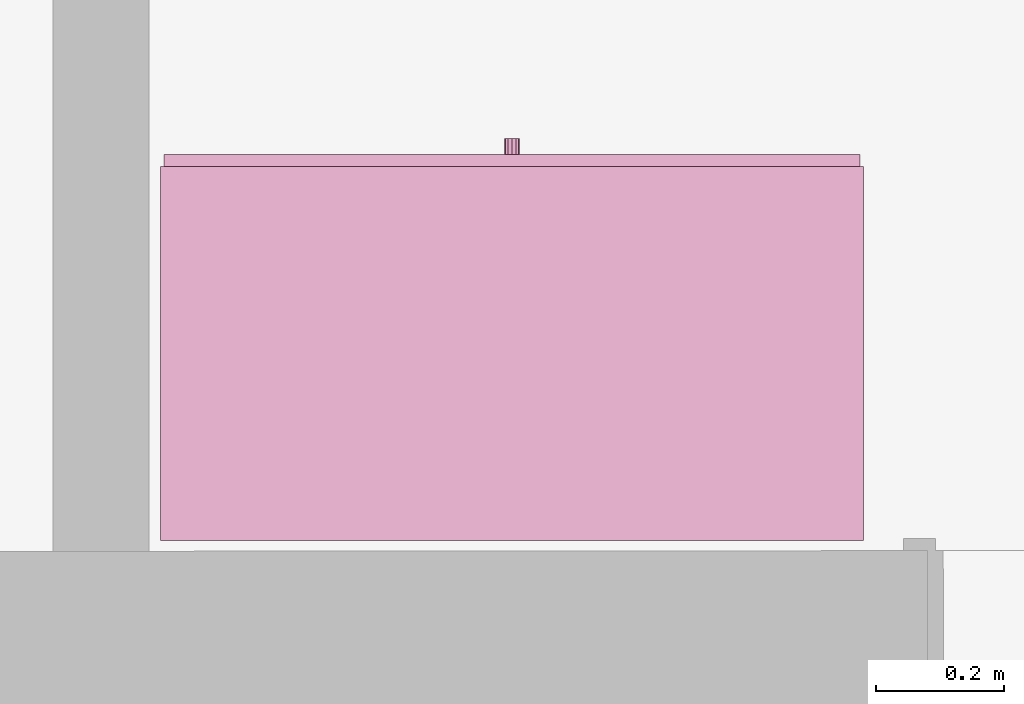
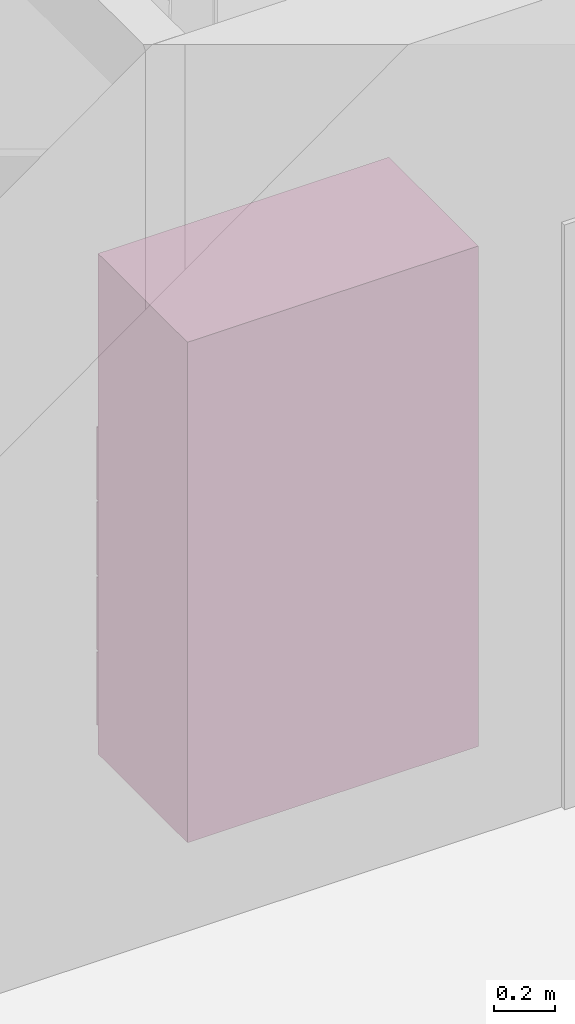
# One storey, part 155 of 194: 1 furnishing.
"""IFC2X3 building model written with IfcOpenShell, lengths in millimetres."""

import ifcopenshell
import ifcopenshell.guid

model = None  # the IFC model being written
_history = None  # IfcOwnerHistory: only IFC2X3 demands one
_inside = {}  # id of a spatial element -> (the spatial element, [elements in it])
_under = {}  # id of a project, library or spatial element -> (it, [spatial elements below it])
_declared = {}  # id of a project -> (the project, [libraries it declares])
_typed = {}  # id of a type object -> (the type object, [elements of that type])
_made_of = {}  # id of a material, layer set ... -> (it, [elements and type objects made of it])


def new_model(schema):
    """Start an empty IFC model of exactly this schema.

    Asked for "IFC4X3", IfcOpenShell would pick the latest addendum, in which some entities
    have other attributes; the version numbers below select the first issue.
    IFC2X3 requires an IfcOwnerHistory on every rooted entity: one is made here for all.
    """
    global model, _history
    if schema == "IFC4X3":
        model = ifcopenshell.file(schema_version=(4, 3, 0, 0))
    else:
        model = ifcopenshell.file(schema=schema)
    _inside.clear()
    _under.clear()
    _declared.clear()
    _typed.clear()
    _made_of.clear()
    _history = None
    if model.schema == "IFC2X3":
        org = make("IfcOrganization", Name="unknown")
        user = make(
            "IfcPersonAndOrganization",
            ThePerson=make("IfcPerson", FamilyName="unknown"),
            TheOrganization=org,
        )
        app = make(
            "IfcApplication",
            ApplicationDeveloper=org,
            Version="unknown",
            ApplicationFullName="unknown",
            ApplicationIdentifier="unknown",
        )
        _history = make(
            "IfcOwnerHistory",
            OwningUser=user,
            OwningApplication=app,
            ChangeAction="ADDED",
            CreationDate=0,
        )
    return model


def make(cls, **values):
    """One entity of the class cls with the attributes given. An attribute that is None is left unset."""
    return model.create_entity(
        cls, **{name: value for name, value in values.items() if value is not None}
    )


def entity(cls, *values):
    """Any entity or typed value of the class cls, its attributes in the order of the schema. None: left unset."""
    e = model.create_entity(cls)
    for i, value in enumerate(values):
        if value is not None:
            e[i] = value
    return e


def rooted(cls, **values):
    """An entity with a GlobalId (a new one), such as an element, a storey or a relation."""
    return make(cls, GlobalId=ifcopenshell.guid.new(), OwnerHistory=_history, **values)


def si_unit(unit_type, name, prefix=None):
    """IfcSIUnit, for example si_unit("LENGTHUNIT", "METRE", prefix="MILLI")."""
    return make("IfcSIUnit", UnitType=unit_type, Prefix=prefix, Name=name)


def converted_unit(unit_type, name, factor, base, dimensions=None, offset=None):
    """IfcConversionBasedUnit, such as the inch: factor (a typed value) times the base unit."""
    return make(
        "IfcConversionBasedUnit"
        if offset is None
        else "IfcConversionBasedUnitWithOffset",
        ConversionOffset=offset,
        Dimensions=None
        if dimensions is None
        else entity("IfcDimensionalExponents", *dimensions),
        UnitType=unit_type,
        Name=name,
        ConversionFactor=make(
            "IfcMeasureWithUnit", ValueComponent=factor, UnitComponent=base
        ),
    )


def derived_unit(unit_type, elements):
    """IfcDerivedUnit: a product of units, each with its exponent."""
    return make(
        "IfcDerivedUnit",
        Elements=[
            make("IfcDerivedUnitElement", Unit=unit, Exponent=power)
            for unit, power in elements
        ],
        UnitType=unit_type,
    )


def money_unit(currency):
    """IfcMonetaryUnit."""
    return make("IfcMonetaryUnit", Currency=currency)


def assignment(units):
    """IfcUnitAssignment: the units of a project."""
    return None if units is None else make("IfcUnitAssignment", Units=units)


def point(xyz):
    """IfcCartesianPoint."""
    return None if xyz is None else make("IfcCartesianPoint", Coordinates=xyz)


def direction(xyz):
    """IfcDirection."""
    return None if xyz is None else make("IfcDirection", DirectionRatios=xyz)


def frame(location, z_axis=None, x_axis=None):
    """IfcAxis2Placement3D, a coordinate frame: its origin and axes. An axis left out is left unset."""
    return make(
        "IfcAxis2Placement3D",
        Location=point(location),
        Axis=direction(z_axis),
        RefDirection=direction(x_axis),
    )


def origin_with_axes():
    """The frame at (0, 0, 0) with the z axis (0, 0, 1) and the x axis (1, 0, 0) written out."""
    return frame((0.0, 0.0, 0.0), z_axis=(0.0, 0.0, 1.0), x_axis=(1.0, 0.0, 0.0))


def place(relative_to, where):
    """IfcLocalPlacement: puts the frame where relative to a parent placement (None: the world)."""
    return make(
        "IfcLocalPlacement", PlacementRelTo=relative_to, RelativePlacement=where
    )


def context(
    kind, dimensions, precision=None, world=None, true_north=None, identifier=None
):
    """IfcGeometricRepresentationContext, for example the 3D "Model" context."""
    return make(
        "IfcGeometricRepresentationContext",
        ContextIdentifier=identifier,
        ContextType=kind,
        CoordinateSpaceDimension=dimensions,
        Precision=precision,
        WorldCoordinateSystem=world,
        TrueNorth=true_north,
    )


def subcontext(parent, identifier, kind, view, scale=None):
    """IfcGeometricRepresentationSubContext, for example "Body" below "Model"."""
    return make(
        "IfcGeometricRepresentationSubContext",
        ContextIdentifier=identifier,
        ContextType=kind,
        ParentContext=parent,
        TargetScale=scale,
        TargetView=view,
    )


def project(units=None, contexts=None):
    """IfcProject with its units and contexts."""
    return rooted(
        "IfcProject",
        Name="project",
        RepresentationContexts=contexts,
        UnitsInContext=assignment(units),
    )


def spatial(cls, under=None, at=None, **own):
    """A site, building, storey or space (cls), placed at a placement, below another one or the project."""
    s = rooted(cls, ObjectPlacement=at, **own)
    if under is not None:
        _under.setdefault(under.id(), (under, []))[1].append(s)
    return s


def faces_of(points, faces, orient=None, outer=None):
    """IfcFace entities. A face is a list of loops; a loop is a list of indices into points, from 0.

    orient and outer hold one flag for each loop. By default every Orientation is true, the
    first loop of a face is its IfcFaceOuterBound and the others are IfcFaceBound.
    """
    made = []
    for i, loops in enumerate(faces):
        bounds = []
        for j, loop in enumerate(loops):
            is_outer = j == 0 if outer is None else outer[i][j]
            bounds.append(
                make(
                    "IfcFaceOuterBound" if is_outer else "IfcFaceBound",
                    Bound=make("IfcPolyLoop", Polygon=[points[k] for k in loop]),
                    Orientation=True if orient is None else orient[i][j],
                )
            )
        made.append(make("IfcFace", Bounds=bounds))
    return made


def faceted_brep(points, faces, orient=None, outer=None, voids=None):
    """IfcFacetedBrep: a solid bounded by flat faces; with voids (closed shells), ...WithVoids."""
    shared = [point(p) for p in points]
    hull = make("IfcClosedShell", CfsFaces=faces_of(shared, faces, orient, outer))
    if voids is None:
        return make("IfcFacetedBrep", Outer=hull)
    return make(
        "IfcFacetedBrepWithVoids",
        Outer=hull,
        Voids=[
            make(cls, CfsFaces=faces_of(shared, fs, o, b)) for cls, fs, o, b in voids
        ],
    )


def shape(context_of_items, identifier, shape_type, items):
    """IfcShapeRepresentation: the items that make up one representation, for example the "Body"."""
    return make(
        "IfcShapeRepresentation",
        ContextOfItems=context_of_items,
        RepresentationIdentifier=identifier,
        RepresentationType=shape_type,
        Items=items,
    )


def made_of(thing, what):
    """Note that an element or type object is made of a material, layer set ...; save() writes the relation."""
    if what is not None:
        _made_of.setdefault(what.id(), (what, []))[1].append(thing)
    return thing


def type_object(cls, material=None, **own):
    """A type object (cls), such as IfcWallType, which elements share."""
    return made_of(rooted(cls, **own), material)


def element(
    cls,
    number,
    at=None,
    inside=None,
    cuts=None,
    type_object=None,
    material=None,
    context=None,
    identifier="Body",
    shape_type=None,
    held_by="IfcProductDefinitionShape",
    body=None,
    shapes=None,
    **own,
):
    """One element of the class cls, such as IfcWall. Its Tag is "e" and its number.

    at: its placement. inside: the storey or other place that contains it. cuts: it is an
    opening in that element (IfcRelVoidsElement). A single representation is given by context,
    identifier, shape_type and body (its items); several are given by shapes. held_by: the class
    of the entity that holds the representations. save() writes the other relations.
    """
    e = rooted(cls, Tag="e%d" % number, ObjectPlacement=at, **own)
    if body is not None:
        shapes = [shape(context, identifier, shape_type, body)]
    if shapes is not None:
        e.Representation = make(held_by, Representations=shapes)
    if inside is not None:
        _inside.setdefault(inside.id(), (inside, []))[1].append(e)
    if cuts is not None:
        rooted(
            "IfcRelVoidsElement", RelatingBuildingElement=cuts, RelatedOpeningElement=e
        )
    if type_object is not None:
        _typed.setdefault(type_object.id(), (type_object, []))[1].append(e)
    return made_of(e, material)


def aggregate(whole, parts):
    """IfcRelAggregates: a whole, such as a stair, and the parts it consists of."""
    return rooted("IfcRelAggregates", RelatingObject=whole, RelatedObjects=parts)


def save(model, path):
    """Write the relations noted so far, then the file.

    IfcRelAggregates (storeys below a building ...), IfcRelContainedInSpatialStructure (elements
    in a storey), IfcRelDefinesByType, IfcRelAssociatesMaterial and IfcRelDeclares: one each for
    every whole, place, type object, material and project.
    """
    for whole, parts in _under.values():
        aggregate(whole, parts)
    for where, things in _inside.values():
        rooted(
            "IfcRelContainedInSpatialStructure",
            RelatedElements=things,
            RelatingStructure=where,
        )
    for kind, things in _typed.values():
        rooted("IfcRelDefinesByType", RelatedObjects=things, RelatingType=kind)
    for what, things in _made_of.values():
        rooted("IfcRelAssociatesMaterial", RelatedObjects=things, RelatingMaterial=what)
    for by, libraries in _declared.values():
        rooted("IfcRelDeclares", RelatingContext=by, RelatedDefinitions=libraries)
    model.write(path)


model = new_model("IFC2X3")

# Units and contexts
model_context = context("Model", 3, precision=1e-05, world=origin_with_axes(), true_north=direction((0.0, 1.0)))
body_context = subcontext(model_context, "Body", "Model", "MODEL_VIEW")
ifc_project = project(units=[si_unit("LENGTHUNIT", "METRE", prefix="MILLI"), si_unit("AREAUNIT", "SQUARE_METRE"), si_unit("VOLUMEUNIT", "CUBIC_METRE"), converted_unit("PLANEANGLEUNIT", "DEGREE", entity("IfcPlaneAngleMeasure", 0.0174532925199), si_unit("PLANEANGLEUNIT", "RADIAN"), dimensions=[0, 0, 0, 0, 0, 0, 0]), si_unit("SOLIDANGLEUNIT", "STERADIAN"), money_unit("EUR"), converted_unit("TIMEUNIT", "Year", entity("IfcTimeMeasure", 31556926.0), si_unit("TIMEUNIT", "SECOND"), dimensions=[0, 0, 1, 0, 0, 0, 0]), si_unit("MASSUNIT", "GRAM", prefix="KILO"), si_unit("THERMODYNAMICTEMPERATUREUNIT", "DEGREE_CELSIUS"), si_unit("LUMINOUSINTENSITYUNIT", "LUMEN"), si_unit("ENERGYUNIT", "JOULE", prefix="MEGA"), derived_unit("THERMALCONDUCTANCEUNIT", [(si_unit("POWERUNIT", "WATT"), 1), (si_unit("LENGTHUNIT", "METRE"), -1), (si_unit("THERMODYNAMICTEMPERATUREUNIT", "KELVIN"), -1)]), derived_unit("SPECIFICHEATCAPACITYUNIT", [(si_unit("ENERGYUNIT", "JOULE"), 1), (si_unit("MASSUNIT", "GRAM", prefix="KILO"), -1), (si_unit("THERMODYNAMICTEMPERATUREUNIT", "KELVIN"), -1)]), derived_unit("MASSDENSITYUNIT", [(si_unit("MASSUNIT", "GRAM", prefix="KILO"), 1), (si_unit("VOLUMEUNIT", "CUBIC_METRE"), -1)])], contexts=[model_context])

# Site, building, storey
site_placement = place(None, origin_with_axes())
site = spatial("IfcSite", under=ifc_project, at=site_placement, Name="Site", CompositionType="ELEMENT")
building_placement = place(site_placement, origin_with_axes())
building = spatial("IfcBuilding", under=site, at=building_placement, Name="Building", CompositionType="ELEMENT")
storey_placement = place(building_placement, frame((0.0, 0.0, 3000.0), z_axis=(0.0, 0.0, 1.0), x_axis=(1.0, 0.0, 0.0)))
storey = spatial("IfcBuildingStorey", under=building, at=storey_placement, Name="2 KORRUS", CompositionType="ELEMENT", Elevation=3000.0)

# Furnishing
furnishing_element_type = type_object("IfcFurnishingElementType", Name="Model Element 10")
furnishing_placement = place(storey_placement, frame((23272.1001597, 43704.4226452, 0.0), z_axis=(0.0, 0.0, 1.0), x_axis=(-1.0, 0.0, 0.0)))
element("IfcFurnishingElement", 1, at=furnishing_placement, inside=storey, type_object=furnishing_element_type, Name="FU - 001", context=body_context, shape_type="Brep", body=[
    faceted_brep([(1099.73701365, 19.0, 0.0), (0.0, 19.0, 0.0), (0.0, 604.543386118, 0.0), (1099.73701365, 604.543386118, 0.0), (1099.73701365, 19.0, 100.0), (0.0, 19.0, 100.0), (0.0, 604.543386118, 100.0), (1099.73701365, 604.543386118, 100.0)], [[[0, 1, 2, 3]], [[1, 0, 4, 5]], [[2, 1, 5, 6]], [[3, 2, 6, 7]], [[0, 3, 7, 4]], [[5, 4, 7, 6]]]),
    faceted_brep([(19.0, 604.543386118, 119.0), (19.0, 585.543386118, 119.0), (19.0, 585.543386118, 1981.0), (19.0, 604.543386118, 1981.0), (1080.73701365, 604.543386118, 119.0), (1080.73701365, 585.543386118, 119.0), (1080.73701365, 585.543386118, 1981.0), (1080.73701365, 604.543386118, 1981.0)], [[[0, 1, 2, 3]], [[0, 4, 5, 1]], [[1, 5, 6, 2]], [[3, 2, 6, 7]], [[4, 0, 3, 7]], [[5, 4, 7, 6]]]),
    faceted_brep([(1099.73701365, 19.0, 100.0), (1080.73701365, 19.0, 100.0), (1080.73701365, 604.543386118, 100.0), (1099.73701365, 604.543386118, 100.0), (1099.73701365, 19.0, 2000.0), (1080.73701365, 19.0, 2000.0), (1080.73701365, 604.543386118, 2000.0), (1099.73701365, 604.543386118, 2000.0)], [[[0, 1, 2, 3]], [[1, 0, 4, 5]], [[2, 1, 5, 6]], [[3, 2, 6, 7]], [[0, 3, 7, 4]], [[5, 4, 7, 6]]]),
    faceted_brep([(19.0, 19.0, 100.0), (0.0, 19.0, 100.0), (0.0, 604.543386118, 100.0), (19.0, 604.543386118, 100.0), (19.0, 19.0, 2000.0), (0.0, 19.0, 2000.0), (0.0, 604.543386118, 2000.0), (19.0, 604.543386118, 2000.0)], [[[0, 1, 2, 3]], [[1, 0, 4, 5]], [[2, 1, 5, 6]], [[3, 2, 6, 7]], [[0, 3, 7, 4]], [[5, 4, 7, 6]]]),
    faceted_brep([(1080.73701365, 19.0, 100.0), (19.0, 19.0, 100.0), (19.0, 604.543386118, 100.0), (1080.73701365, 604.543386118, 100.0), (1080.73701365, 19.0, 119.0), (19.0, 19.0, 119.0), (19.0, 604.543386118, 119.0), (1080.73701365, 604.543386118, 119.0)], [[[0, 1, 2, 3]], [[1, 0, 4, 5]], [[2, 1, 5, 6]], [[3, 2, 6, 7]], [[0, 3, 7, 4]], [[5, 4, 7, 6]]]),
    faceted_brep([(1080.73701365, 19.0, 1981.0), (19.0, 19.0, 1981.0), (19.0, 604.543386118, 1981.0), (1080.73701365, 604.543386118, 1981.0), (1080.73701365, 19.0, 2000.0), (19.0, 19.0, 2000.0), (19.0, 604.543386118, 2000.0), (1080.73701365, 604.543386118, 2000.0)], [[[0, 1, 2, 3]], [[1, 0, 4, 5]], [[2, 1, 5, 6]], [[3, 2, 6, 7]], [[0, 3, 7, 4]], [[5, 4, 7, 6]]]),
    faceted_brep([(5.0, 19.0, 105.0), (1094.73701365, 19.0, 105.0), (1094.73701365, 0.0, 105.0), (5.0, 0.0, 105.0), (5.0, 19.0, 395.0), (1094.73701365, 19.0, 395.0), (1094.73701365, 0.0, 395.0), (5.0, 0.0, 395.0)], [[[0, 1, 2, 3]], [[0, 4, 5, 1]], [[1, 5, 6, 2]], [[3, 2, 6, 7]], [[4, 0, 3, 7]], [[5, 4, 7, 6]]]),
    faceted_brep([(560.260811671, 0.0, 244.0), (555.868506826, 0.0, 239.607695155), (549.868506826, 0.0, 238.0), (543.868506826, 0.0, 239.607695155), (539.476201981, 0.0, 244.0), (537.868506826, 0.0, 250.0), (539.476201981, 0.0, 256.0), (543.868506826, 0.0, 260.392304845), (549.868506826, 0.0, 262.0), (555.868506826, 0.0, 260.392304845), (560.260811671, 0.0, 256.0), (561.868506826, 0.0, 250.0), (560.260811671, -25.0, 244.0), (555.868506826, -25.0, 239.607695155), (549.868506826, -25.0, 238.0), (543.868506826, -25.0, 239.607695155), (539.476201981, -25.0, 244.0), (537.868506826, -25.0, 250.0), (539.476201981, -25.0, 256.0), (543.868506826, -25.0, 260.392304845), (549.868506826, -25.0, 262.0), (555.868506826, -25.0, 260.392304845), (560.260811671, -25.0, 256.0), (561.868506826, -25.0, 250.0)], [[[0, 1, 2, 3, 4, 5, 6, 7, 8, 9, 10, 11]], [[1, 0, 12, 13]], [[2, 1, 13, 14]], [[3, 2, 14, 15]], [[4, 3, 15, 16]], [[5, 4, 16, 17]], [[6, 5, 17, 18]], [[7, 6, 18, 19]], [[8, 7, 19, 20]], [[9, 8, 20, 21]], [[10, 9, 21, 22]], [[11, 10, 22, 23]], [[0, 11, 23, 12]], [[12, 23, 22, 21, 20, 19, 18, 17, 16, 15, 14, 13]]]),
    faceted_brep([(5.0, 19.0, 405.0), (1094.73701365, 19.0, 405.0), (1094.73701365, 0.0, 405.0), (5.0, 0.0, 405.0), (5.0, 19.0, 695.0), (1094.73701365, 19.0, 695.0), (1094.73701365, 0.0, 695.0), (5.0, 0.0, 695.0)], [[[0, 1, 2, 3]], [[0, 4, 5, 1]], [[1, 5, 6, 2]], [[3, 2, 6, 7]], [[4, 0, 3, 7]], [[5, 4, 7, 6]]]),
    faceted_brep([(560.260811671, 0.0, 544.0), (555.868506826, 0.0, 539.607695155), (549.868506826, 0.0, 538.0), (543.868506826, 0.0, 539.607695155), (539.476201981, 0.0, 544.0), (537.868506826, 0.0, 550.0), (539.476201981, 0.0, 556.0), (543.868506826, 0.0, 560.392304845), (549.868506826, 0.0, 562.0), (555.868506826, 0.0, 560.392304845), (560.260811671, 0.0, 556.0), (561.868506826, 0.0, 550.0), (560.260811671, -25.0, 544.0), (555.868506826, -25.0, 539.607695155), (549.868506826, -25.0, 538.0), (543.868506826, -25.0, 539.607695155), (539.476201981, -25.0, 544.0), (537.868506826, -25.0, 550.0), (539.476201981, -25.0, 556.0), (543.868506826, -25.0, 560.392304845), (549.868506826, -25.0, 562.0), (555.868506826, -25.0, 560.392304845), (560.260811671, -25.0, 556.0), (561.868506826, -25.0, 550.0)], [[[0, 1, 2, 3, 4, 5, 6, 7, 8, 9, 10, 11]], [[1, 0, 12, 13]], [[2, 1, 13, 14]], [[3, 2, 14, 15]], [[4, 3, 15, 16]], [[5, 4, 16, 17]], [[6, 5, 17, 18]], [[7, 6, 18, 19]], [[8, 7, 19, 20]], [[9, 8, 20, 21]], [[10, 9, 21, 22]], [[11, 10, 22, 23]], [[0, 11, 23, 12]], [[12, 23, 22, 21, 20, 19, 18, 17, 16, 15, 14, 13]]]),
    faceted_brep([(5.0, 19.0, 705.0), (1094.73701365, 19.0, 705.0), (1094.73701365, 0.0, 705.0), (5.0, 0.0, 705.0), (5.0, 19.0, 995.0), (1094.73701365, 19.0, 995.0), (1094.73701365, 0.0, 995.0), (5.0, 0.0, 995.0)], [[[0, 1, 2, 3]], [[0, 4, 5, 1]], [[1, 5, 6, 2]], [[3, 2, 6, 7]], [[4, 0, 3, 7]], [[5, 4, 7, 6]]]),
    faceted_brep([(560.260811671, 0.0, 844.0), (555.868506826, 0.0, 839.607695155), (549.868506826, 0.0, 838.0), (543.868506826, 0.0, 839.607695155), (539.476201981, 0.0, 844.0), (537.868506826, 0.0, 850.0), (539.476201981, 0.0, 856.0), (543.868506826, 0.0, 860.392304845), (549.868506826, 0.0, 862.0), (555.868506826, 0.0, 860.392304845), (560.260811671, 0.0, 856.0), (561.868506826, 0.0, 850.0), (560.260811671, -25.0, 844.0), (555.868506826, -25.0, 839.607695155), (549.868506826, -25.0, 838.0), (543.868506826, -25.0, 839.607695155), (539.476201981, -25.0, 844.0), (537.868506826, -25.0, 850.0), (539.476201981, -25.0, 856.0), (543.868506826, -25.0, 860.392304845), (549.868506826, -25.0, 862.0), (555.868506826, -25.0, 860.392304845), (560.260811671, -25.0, 856.0), (561.868506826, -25.0, 850.0)], [[[0, 1, 2, 3, 4, 5, 6, 7, 8, 9, 10, 11]], [[1, 0, 12, 13]], [[2, 1, 13, 14]], [[3, 2, 14, 15]], [[4, 3, 15, 16]], [[5, 4, 16, 17]], [[6, 5, 17, 18]], [[7, 6, 18, 19]], [[8, 7, 19, 20]], [[9, 8, 20, 21]], [[10, 9, 21, 22]], [[11, 10, 22, 23]], [[0, 11, 23, 12]], [[12, 23, 22, 21, 20, 19, 18, 17, 16, 15, 14, 13]]]),
    faceted_brep([(5.0, 19.0, 1005.0), (1094.73701365, 19.0, 1005.0), (1094.73701365, 0.0, 1005.0), (5.0, 0.0, 1005.0), (5.0, 19.0, 1295.0), (1094.73701365, 19.0, 1295.0), (1094.73701365, 0.0, 1295.0), (5.0, 0.0, 1295.0)], [[[0, 1, 2, 3]], [[0, 4, 5, 1]], [[1, 5, 6, 2]], [[3, 2, 6, 7]], [[4, 0, 3, 7]], [[5, 4, 7, 6]]]),
    faceted_brep([(560.260811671, 0.0, 1144.0), (555.868506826, 0.0, 1139.60769515), (549.868506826, 0.0, 1138.0), (543.868506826, 0.0, 1139.60769515), (539.476201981, 0.0, 1144.0), (537.868506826, 0.0, 1150.0), (539.476201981, 0.0, 1156.0), (543.868506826, 0.0, 1160.39230485), (549.868506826, 0.0, 1162.0), (555.868506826, 0.0, 1160.39230485), (560.260811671, 0.0, 1156.0), (561.868506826, 0.0, 1150.0), (560.260811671, -25.0, 1144.0), (555.868506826, -25.0, 1139.60769515), (549.868506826, -25.0, 1138.0), (543.868506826, -25.0, 1139.60769515), (539.476201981, -25.0, 1144.0), (537.868506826, -25.0, 1150.0), (539.476201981, -25.0, 1156.0), (543.868506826, -25.0, 1160.39230485), (549.868506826, -25.0, 1162.0), (555.868506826, -25.0, 1160.39230485), (560.260811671, -25.0, 1156.0), (561.868506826, -25.0, 1150.0)], [[[0, 1, 2, 3, 4, 5, 6, 7, 8, 9, 10, 11]], [[1, 0, 12, 13]], [[2, 1, 13, 14]], [[3, 2, 14, 15]], [[4, 3, 15, 16]], [[5, 4, 16, 17]], [[6, 5, 17, 18]], [[7, 6, 18, 19]], [[8, 7, 19, 20]], [[9, 8, 20, 21]], [[10, 9, 21, 22]], [[11, 10, 22, 23]], [[0, 11, 23, 12]], [[12, 23, 22, 21, 20, 19, 18, 17, 16, 15, 14, 13]]]),
    faceted_brep([(19.0, 19.0, 390.5), (1080.73701365, 19.0, 390.5), (1080.73701365, 19.0, 409.5), (19.0, 19.0, 409.5), (19.0, 585.543386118, 390.5), (1080.73701365, 585.543386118, 390.5), (1080.73701365, 585.543386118, 409.5), (19.0, 585.543386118, 409.5)], [[[0, 1, 2, 3]], [[0, 4, 5, 1]], [[1, 5, 6, 2]], [[3, 2, 6, 7]], [[4, 0, 3, 7]], [[5, 4, 7, 6]]]),
    faceted_brep([(19.0, 19.0, 690.5), (1080.73701365, 19.0, 690.5), (1080.73701365, 19.0, 709.5), (19.0, 19.0, 709.5), (19.0, 585.543386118, 690.5), (1080.73701365, 585.543386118, 690.5), (1080.73701365, 585.543386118, 709.5), (19.0, 585.543386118, 709.5)], [[[0, 1, 2, 3]], [[0, 4, 5, 1]], [[1, 5, 6, 2]], [[3, 2, 6, 7]], [[4, 0, 3, 7]], [[5, 4, 7, 6]]]),
    faceted_brep([(19.0, 19.0, 990.5), (1080.73701365, 19.0, 990.5), (1080.73701365, 19.0, 1009.5), (19.0, 19.0, 1009.5), (19.0, 585.543386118, 990.5), (1080.73701365, 585.543386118, 990.5), (1080.73701365, 585.543386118, 1009.5), (19.0, 585.543386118, 1009.5)], [[[0, 1, 2, 3]], [[0, 4, 5, 1]], [[1, 5, 6, 2]], [[3, 2, 6, 7]], [[4, 0, 3, 7]], [[5, 4, 7, 6]]]),
    faceted_brep([(19.0, 19.0, 1290.5), (1080.73701365, 19.0, 1290.5), (1080.73701365, 19.0, 1309.5), (19.0, 19.0, 1309.5), (19.0, 585.543386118, 1290.5), (1080.73701365, 585.543386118, 1290.5), (1080.73701365, 585.543386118, 1309.5), (19.0, 585.543386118, 1309.5)], [[[0, 1, 2, 3]], [[0, 4, 5, 1]], [[1, 5, 6, 2]], [[3, 2, 6, 7]], [[4, 0, 3, 7]], [[5, 4, 7, 6]]]),
    faceted_brep([(1080.73701365, 19.0, 1463.125), (19.0, 19.0, 1463.125), (19.0, 585.543386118, 1463.125), (1080.73701365, 585.543386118, 1463.125), (1080.73701365, 19.0, 1482.125), (19.0, 19.0, 1482.125), (19.0, 585.543386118, 1482.125), (1080.73701365, 585.543386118, 1482.125)], [[[0, 1, 2, 3]], [[1, 0, 4, 5]], [[2, 1, 5, 6]], [[3, 2, 6, 7]], [[0, 3, 7, 4]], [[5, 4, 7, 6]]]),
    faceted_brep([(1080.73701365, 19.0, 1635.75), (19.0, 19.0, 1635.75), (19.0, 585.543386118, 1635.75), (1080.73701365, 585.543386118, 1635.75), (1080.73701365, 19.0, 1654.75), (19.0, 19.0, 1654.75), (19.0, 585.543386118, 1654.75), (1080.73701365, 585.543386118, 1654.75)], [[[0, 1, 2, 3]], [[1, 0, 4, 5]], [[2, 1, 5, 6]], [[3, 2, 6, 7]], [[0, 3, 7, 4]], [[5, 4, 7, 6]]]),
    faceted_brep([(1080.73701365, 19.0, 1808.375), (19.0, 19.0, 1808.375), (19.0, 585.543386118, 1808.375), (1080.73701365, 585.543386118, 1808.375), (1080.73701365, 19.0, 1827.375), (19.0, 19.0, 1827.375), (19.0, 585.543386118, 1827.375), (1080.73701365, 585.543386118, 1827.375)], [[[0, 1, 2, 3]], [[1, 0, 4, 5]], [[2, 1, 5, 6]], [[3, 2, 6, 7]], [[0, 3, 7, 4]], [[5, 4, 7, 6]]]),
])

save(model, "model.ifc")
